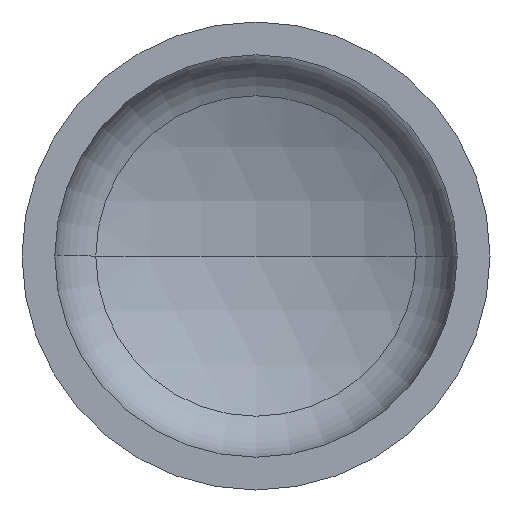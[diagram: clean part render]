
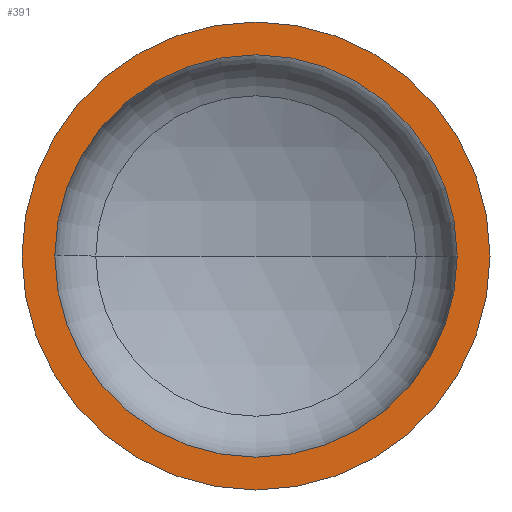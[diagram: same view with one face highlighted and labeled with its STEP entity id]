
A CAD part, front view. The second image highlights one B-rep face of the part: STEP entity #391.
In plain terms, the highlighted planar face has unit normal (0, -1, 0).
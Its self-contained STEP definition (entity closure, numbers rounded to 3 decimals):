
#6 = ORIENTED_EDGE ( 'NONE', *, *, #183, .F. ) ;
#13 = EDGE_LOOP ( 'NONE', ( #54, #18 ) ) ;
#18 = ORIENTED_EDGE ( 'NONE', *, *, #177, .T. ) ;
#23 = VERTEX_POINT ( 'NONE', #354 ) ;
#37 = CIRCLE ( 'NONE', #156, 800. ) ;
#41 = VERTEX_POINT ( 'NONE', #284 ) ;
#44 = AXIS2_PLACEMENT_3D ( 'NONE', #334, #337, #131 ) ;
#51 = EDGE_LOOP ( 'NONE', ( #6, #123 ) ) ;
#54 = ORIENTED_EDGE ( 'NONE', *, *, #161, .T. ) ;
#100 = PLANE ( 'NONE',  #243 ) ;
#120 = VERTEX_POINT ( 'NONE', #227 ) ;
#123 = ORIENTED_EDGE ( 'NONE', *, *, #357, .F. ) ;
#127 = VERTEX_POINT ( 'NONE', #330 ) ;
#131 = DIRECTION ( 'NONE',  ( 1., 0., 0. ) ) ;
#138 = AXIS2_PLACEMENT_3D ( 'NONE', #286, #285, #173 ) ;
#145 = AXIS2_PLACEMENT_3D ( 'NONE', #297, #311, #305 ) ;
#156 = AXIS2_PLACEMENT_3D ( 'NONE', #322, #319, #316 ) ;
#161 = EDGE_CURVE ( 'NONE', #23, #41, #37, .T. ) ;
#173 = DIRECTION ( 'NONE',  ( 1., 0., 0. ) ) ;
#175 = FACE_BOUND ( 'NONE', #51, .T. ) ;
#177 = EDGE_CURVE ( 'NONE', #41, #23, #300, .T. ) ;
#183 = EDGE_CURVE ( 'NONE', #127, #120, #411, .T. ) ;
#227 = CARTESIAN_POINT ( 'NONE',  ( -688., 0., 0. ) ) ;
#243 = AXIS2_PLACEMENT_3D ( 'NONE', #321, #405, #273 ) ;
#264 = CIRCLE ( 'NONE', #44, 688. ) ;
#273 = DIRECTION ( 'NONE',  ( -1., 0., 0. ) ) ;
#284 = CARTESIAN_POINT ( 'NONE',  ( -800., 0., 0. ) ) ;
#285 = DIRECTION ( 'NONE',  ( 0., -1., 0. ) ) ;
#286 = CARTESIAN_POINT ( 'NONE',  ( 0., 0., 0. ) ) ;
#297 = CARTESIAN_POINT ( 'NONE',  ( 0., 0., 0. ) ) ;
#300 = CIRCLE ( 'NONE', #145, 800. ) ;
#305 = DIRECTION ( 'NONE',  ( 1., 0., 0. ) ) ;
#311 = DIRECTION ( 'NONE',  ( 0., -1., 0. ) ) ;
#316 = DIRECTION ( 'NONE',  ( 1., 0., 0. ) ) ;
#319 = DIRECTION ( 'NONE',  ( 0., -1., 0. ) ) ;
#321 = CARTESIAN_POINT ( 'NONE',  ( -800., 0., 0. ) ) ;
#322 = CARTESIAN_POINT ( 'NONE',  ( 0., 0., 0. ) ) ;
#330 = CARTESIAN_POINT ( 'NONE',  ( 688., 0., 0. ) ) ;
#334 = CARTESIAN_POINT ( 'NONE',  ( 0., 0., 0. ) ) ;
#337 = DIRECTION ( 'NONE',  ( 0., -1., 0. ) ) ;
#354 = CARTESIAN_POINT ( 'NONE',  ( 800., 0., 0. ) ) ;
#357 = EDGE_CURVE ( 'NONE', #120, #127, #264, .T. ) ;
#360 = FACE_OUTER_BOUND ( 'NONE', #13, .T. ) ;
#391 = ADVANCED_FACE ( 'NONE', ( #175, #360 ), #100, .F. ) ;
#405 = DIRECTION ( 'NONE',  ( 0., 1., 0. ) ) ;
#411 = CIRCLE ( 'NONE', #138, 688. ) ;
